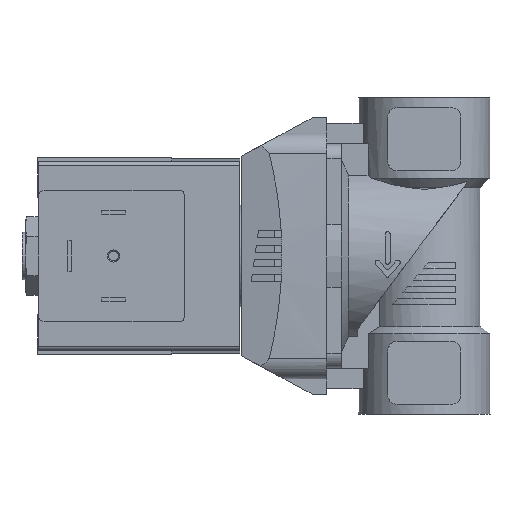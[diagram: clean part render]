
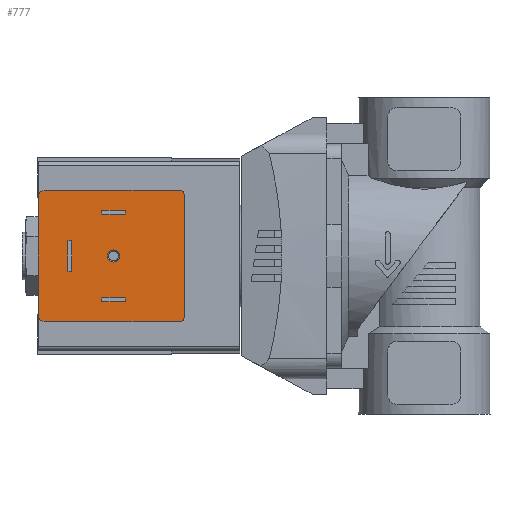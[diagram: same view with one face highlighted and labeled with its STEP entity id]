
A CAD part, left-side view. The second image highlights one B-rep face of the part: STEP entity #777.
In plain terms, the highlighted planar face has unit normal (-1, 0, 0).
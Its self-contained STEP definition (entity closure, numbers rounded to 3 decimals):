
#777 = ADVANCED_FACE( '', ( #1983, #1984, #1985, #1986, #1987 ), #1988, .F. );
#1983 = FACE_BOUND( '', #3671, .T. );
#1984 = FACE_BOUND( '', #3672, .T. );
#1985 = FACE_BOUND( '', #3673, .T. );
#1986 = FACE_BOUND( '', #3674, .T. );
#1987 = FACE_OUTER_BOUND( '', #3675, .T. );
#1988 = PLANE( '', #3676 );
#3671 = EDGE_LOOP( '', ( #5760 ) );
#3672 = EDGE_LOOP( '', ( #5761, #5762, #5763, #5764 ) );
#3673 = EDGE_LOOP( '', ( #5765, #5766, #5767, #5768 ) );
#3674 = EDGE_LOOP( '', ( #5769, #5770, #5771, #5772 ) );
#3675 = EDGE_LOOP( '', ( #5773, #5774, #5775, #5776, #5777, #5778, #5779, #5780 ) );
#3676 = AXIS2_PLACEMENT_3D( '', #5781, #5782, #5783 );
#5760 = ORIENTED_EDGE( '', *, *, #10724, .T. );
#5761 = ORIENTED_EDGE( '', *, *, #10351, .T. );
#5762 = ORIENTED_EDGE( '', *, *, #10725, .T. );
#5763 = ORIENTED_EDGE( '', *, *, #10726, .T. );
#5764 = ORIENTED_EDGE( '', *, *, #10727, .T. );
#5765 = ORIENTED_EDGE( '', *, *, #10728, .T. );
#5766 = ORIENTED_EDGE( '', *, *, #10729, .T. );
#5767 = ORIENTED_EDGE( '', *, *, #10730, .T. );
#5768 = ORIENTED_EDGE( '', *, *, #10494, .T. );
#5769 = ORIENTED_EDGE( '', *, *, #10731, .T. );
#5770 = ORIENTED_EDGE( '', *, *, #10732, .T. );
#5771 = ORIENTED_EDGE( '', *, *, #10733, .T. );
#5772 = ORIENTED_EDGE( '', *, *, #10734, .T. );
#5773 = ORIENTED_EDGE( '', *, *, #10735, .F. );
#5774 = ORIENTED_EDGE( '', *, *, #10736, .F. );
#5775 = ORIENTED_EDGE( '', *, *, #10737, .F. );
#5776 = ORIENTED_EDGE( '', *, *, #10738, .F. );
#5777 = ORIENTED_EDGE( '', *, *, #10739, .F. );
#5778 = ORIENTED_EDGE( '', *, *, #10740, .F. );
#5779 = ORIENTED_EDGE( '', *, *, #10741, .F. );
#5780 = ORIENTED_EDGE( '', *, *, #10742, .F. );
#5781 = CARTESIAN_POINT( '', ( -27.5, 14., 12. ) );
#5782 = DIRECTION( '', ( 1., 0., 0. ) );
#5783 = DIRECTION( '', ( 0., 0., -1. ) );
#10351 = EDGE_CURVE( '', #12422, #12423, #12424, .T. );
#10494 = EDGE_CURVE( '', #12682, #12683, #12684, .T. );
#10724 = EDGE_CURVE( '', #13081, #13081, #13082, .T. );
#10725 = EDGE_CURVE( '', #12423, #13083, #13084, .T. );
#10726 = EDGE_CURVE( '', #13083, #13085, #13086, .T. );
#10727 = EDGE_CURVE( '', #13085, #12422, #13087, .T. );
#10728 = EDGE_CURVE( '', #12683, #13088, #13089, .T. );
#10729 = EDGE_CURVE( '', #13088, #13090, #13091, .T. );
#10730 = EDGE_CURVE( '', #13090, #12682, #13092, .T. );
#10731 = EDGE_CURVE( '', #13093, #13094, #13095, .T. );
#10732 = EDGE_CURVE( '', #13094, #13096, #13097, .T. );
#10733 = EDGE_CURVE( '', #13096, #13098, #13099, .T. );
#10734 = EDGE_CURVE( '', #13098, #13093, #13100, .T. );
#10735 = EDGE_CURVE( '', #13101, #13102, #13103, .T. );
#10736 = EDGE_CURVE( '', #13104, #13101, #13105, .T. );
#10737 = EDGE_CURVE( '', #13106, #13104, #13107, .T. );
#10738 = EDGE_CURVE( '', #13108, #13106, #13109, .T. );
#10739 = EDGE_CURVE( '', #13110, #13108, #13111, .T. );
#10740 = EDGE_CURVE( '', #13112, #13110, #13113, .T. );
#10741 = EDGE_CURVE( '', #13114, #13112, #13115, .T. );
#10742 = EDGE_CURVE( '', #13102, #13114, #13116, .T. );
#12422 = VERTEX_POINT( '', #15495 );
#12423 = VERTEX_POINT( '', #15496 );
#12424 = LINE( '', #15497, #15498 );
#12682 = VERTEX_POINT( '', #15863 );
#12683 = VERTEX_POINT( '', #15864 );
#12684 = LINE( '', #15865, #15866 );
#13081 = VERTEX_POINT( '', #16450 );
#13082 = CIRCLE( '', #16451, 1.25 );
#13083 = VERTEX_POINT( '', #16452 );
#13084 = LINE( '', #16453, #16454 );
#13085 = VERTEX_POINT( '', #16455 );
#13086 = LINE( '', #16456, #16457 );
#13087 = LINE( '', #16458, #16459 );
#13088 = VERTEX_POINT( '', #16460 );
#13089 = LINE( '', #16461, #16462 );
#13090 = VERTEX_POINT( '', #16463 );
#13091 = LINE( '', #16464, #16465 );
#13092 = LINE( '', #16466, #16467 );
#13093 = VERTEX_POINT( '', #16468 );
#13094 = VERTEX_POINT( '', #16469 );
#13095 = LINE( '', #16470, #16471 );
#13096 = VERTEX_POINT( '', #16472 );
#13097 = LINE( '', #16473, #16474 );
#13098 = VERTEX_POINT( '', #16475 );
#13099 = LINE( '', #16476, #16477 );
#13100 = LINE( '', #16478, #16479 );
#13101 = VERTEX_POINT( '', #16480 );
#13102 = VERTEX_POINT( '', #16481 );
#13103 = CIRCLE( '', #16482, 1.5 );
#13104 = VERTEX_POINT( '', #16483 );
#13105 = LINE( '', #16484, #16485 );
#13106 = VERTEX_POINT( '', #16486 );
#13107 = CIRCLE( '', #16487, 1.5 );
#13108 = VERTEX_POINT( '', #16488 );
#13109 = LINE( '', #16489, #16490 );
#13110 = VERTEX_POINT( '', #16491 );
#13111 = CIRCLE( '', #16492, 1. );
#13112 = VERTEX_POINT( '', #16493 );
#13113 = LINE( '', #16494, #16495 );
#13114 = VERTEX_POINT( '', #16496 );
#13115 = CIRCLE( '', #16497, 1. );
#13116 = LINE( '', #16498, #16499 );
#15495 = CARTESIAN_POINT( '', ( -27.5, -2.4, -9.4 ) );
#15496 = CARTESIAN_POINT( '', ( -27.5, 2.4, -9.4 ) );
#15497 = CARTESIAN_POINT( '', ( -27.5, -2.4, -9.4 ) );
#15498 = VECTOR( '', #20111, 1000. );
#15863 = CARTESIAN_POINT( '', ( -27.5, -2.4, 8.6 ) );
#15864 = CARTESIAN_POINT( '', ( -27.5, 2.4, 8.6 ) );
#15865 = CARTESIAN_POINT( '', ( -27.5, -2.4, 8.6 ) );
#15866 = VECTOR( '', #20262, 1000. );
#16450 = CARTESIAN_POINT( '', ( -27.5, 0., -1.25 ) );
#16451 = AXIS2_PLACEMENT_3D( '', #20506, #20507, #20508 );
#16452 = CARTESIAN_POINT( '', ( -27.5, 2.4, -8.6 ) );
#16453 = CARTESIAN_POINT( '', ( -27.5, 2.4, -9.4 ) );
#16454 = VECTOR( '', #20509, 1000. );
#16455 = CARTESIAN_POINT( '', ( -27.5, -2.4, -8.6 ) );
#16456 = CARTESIAN_POINT( '', ( -27.5, 2.4, -8.6 ) );
#16457 = VECTOR( '', #20510, 1000. );
#16458 = CARTESIAN_POINT( '', ( -27.5, -2.4, -8.6 ) );
#16459 = VECTOR( '', #20511, 1000. );
#16460 = CARTESIAN_POINT( '', ( -27.5, 2.4, 9.4 ) );
#16461 = CARTESIAN_POINT( '', ( -27.5, 2.4, 8.6 ) );
#16462 = VECTOR( '', #20512, 1000. );
#16463 = CARTESIAN_POINT( '', ( -27.5, -2.4, 9.4 ) );
#16464 = CARTESIAN_POINT( '', ( -27.5, 2.4, 9.4 ) );
#16465 = VECTOR( '', #20513, 1000. );
#16466 = CARTESIAN_POINT( '', ( -27.5, -2.4, 9.4 ) );
#16467 = VECTOR( '', #20514, 1000. );
#16468 = CARTESIAN_POINT( '', ( -27.5, 8.6, -3.15 ) );
#16469 = CARTESIAN_POINT( '', ( -27.5, 9.4, -3.15 ) );
#16470 = CARTESIAN_POINT( '', ( -27.5, 8.6, -3.15 ) );
#16471 = VECTOR( '', #20515, 1000. );
#16472 = CARTESIAN_POINT( '', ( -27.5, 9.4, 3.15 ) );
#16473 = CARTESIAN_POINT( '', ( -27.5, 9.4, -3.15 ) );
#16474 = VECTOR( '', #20516, 1000. );
#16475 = CARTESIAN_POINT( '', ( -27.5, 8.6, 3.15 ) );
#16476 = CARTESIAN_POINT( '', ( -27.5, 9.4, 3.15 ) );
#16477 = VECTOR( '', #20517, 1000. );
#16478 = CARTESIAN_POINT( '', ( -27.5, 8.6, 3.15 ) );
#16479 = VECTOR( '', #20518, 1000. );
#16480 = CARTESIAN_POINT( '', ( -27.5, 15.5, 12. ) );
#16481 = CARTESIAN_POINT( '', ( -27.5, 14., 13.5 ) );
#16482 = AXIS2_PLACEMENT_3D( '', #20519, #20520, #20521 );
#16483 = CARTESIAN_POINT( '', ( -27.5, 15.5, -12. ) );
#16484 = CARTESIAN_POINT( '', ( -27.5, 15.5, -12. ) );
#16485 = VECTOR( '', #20522, 1000. );
#16486 = CARTESIAN_POINT( '', ( -27.5, 14., -13.5 ) );
#16487 = AXIS2_PLACEMENT_3D( '', #20523, #20524, #20525 );
#16488 = CARTESIAN_POINT( '', ( -27.5, -13.5, -13.5 ) );
#16489 = CARTESIAN_POINT( '', ( -27.5, -13.5, -13.5 ) );
#16490 = VECTOR( '', #20526, 1000. );
#16491 = CARTESIAN_POINT( '', ( -27.5, -14.5, -12.5 ) );
#16492 = AXIS2_PLACEMENT_3D( '', #20527, #20528, #20529 );
#16493 = CARTESIAN_POINT( '', ( -27.5, -14.5, 12.5 ) );
#16494 = CARTESIAN_POINT( '', ( -27.5, -14.5, 12.5 ) );
#16495 = VECTOR( '', #20530, 1000. );
#16496 = CARTESIAN_POINT( '', ( -27.5, -13.5, 13.5 ) );
#16497 = AXIS2_PLACEMENT_3D( '', #20531, #20532, #20533 );
#16498 = CARTESIAN_POINT( '', ( -27.5, 14., 13.5 ) );
#16499 = VECTOR( '', #20534, 1000. );
#20111 = DIRECTION( '', ( 0., 1., 0. ) );
#20262 = DIRECTION( '', ( 0., 1., 0. ) );
#20506 = CARTESIAN_POINT( '', ( -27.5, 0., 0. ) );
#20507 = DIRECTION( '', ( 1., 0., 0. ) );
#20508 = DIRECTION( '', ( 0., 0., -1. ) );
#20509 = DIRECTION( '', ( 0., 0., 1. ) );
#20510 = DIRECTION( '', ( 0., -1., 0. ) );
#20511 = DIRECTION( '', ( 0., 0., -1. ) );
#20512 = DIRECTION( '', ( 0., 0., 1. ) );
#20513 = DIRECTION( '', ( 0., -1., 0. ) );
#20514 = DIRECTION( '', ( 0., 0., -1. ) );
#20515 = DIRECTION( '', ( 0., 1., 0. ) );
#20516 = DIRECTION( '', ( 0., 0., 1. ) );
#20517 = DIRECTION( '', ( 0., -1., 0. ) );
#20518 = DIRECTION( '', ( 0., 0., -1. ) );
#20519 = CARTESIAN_POINT( '', ( -27.5, 14., 12. ) );
#20520 = DIRECTION( '', ( 1., 0., 0. ) );
#20521 = DIRECTION( '', ( 0., 0., -1. ) );
#20522 = DIRECTION( '', ( 0., 0., 1. ) );
#20523 = CARTESIAN_POINT( '', ( -27.5, 14., -12. ) );
#20524 = DIRECTION( '', ( 1., 0., 0. ) );
#20525 = DIRECTION( '', ( 0., 0., -1. ) );
#20526 = DIRECTION( '', ( 0., 1., 0. ) );
#20527 = CARTESIAN_POINT( '', ( -27.5, -13.5, -12.5 ) );
#20528 = DIRECTION( '', ( 1., 0., 0. ) );
#20529 = DIRECTION( '', ( 0., 0., -1. ) );
#20530 = DIRECTION( '', ( 0., 0., -1. ) );
#20531 = CARTESIAN_POINT( '', ( -27.5, -13.5, 12.5 ) );
#20532 = DIRECTION( '', ( 1., 0., 0. ) );
#20533 = DIRECTION( '', ( 0., 0., -1. ) );
#20534 = DIRECTION( '', ( 0., -1., 0. ) );
